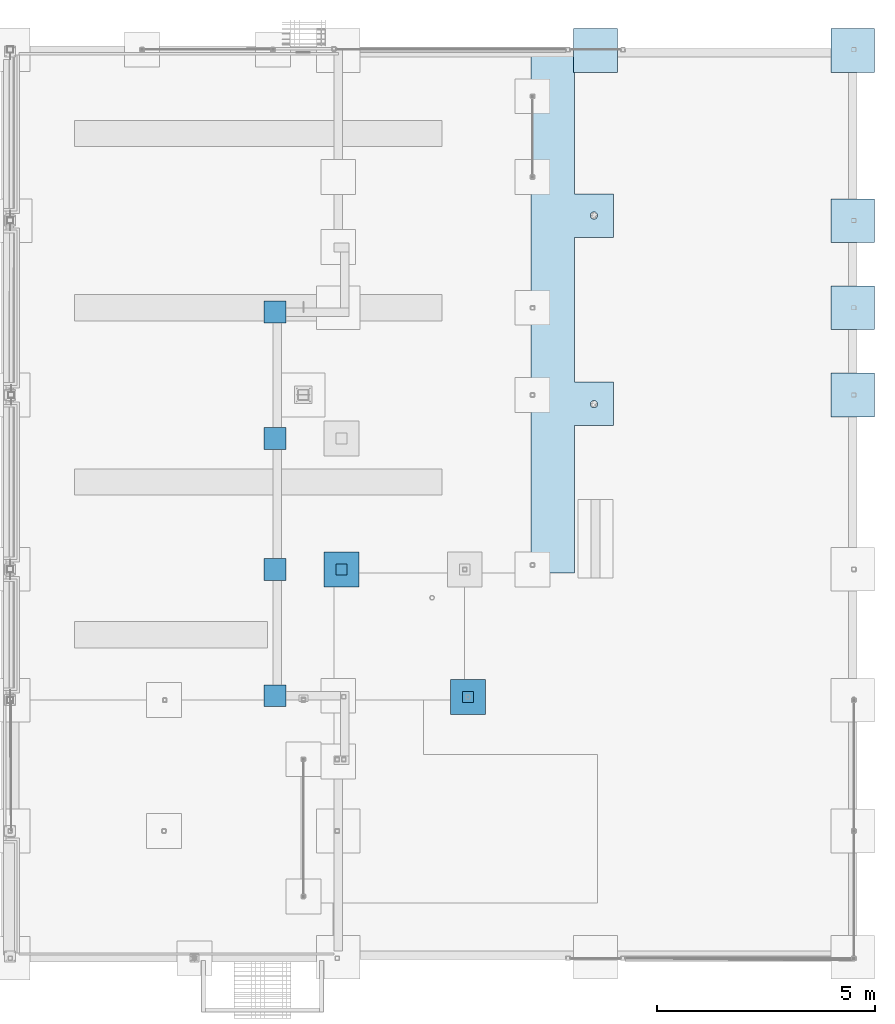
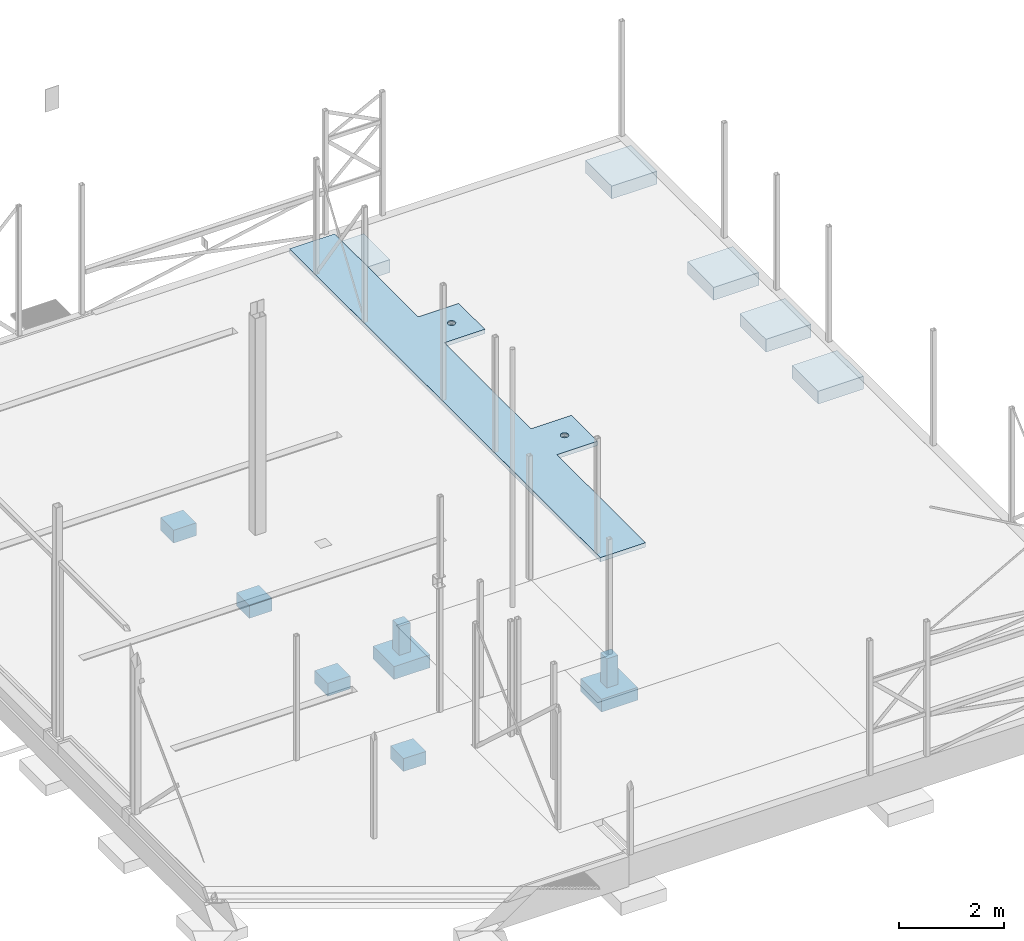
# One storey, part 10 of 18: 12 slabs, 2 openings.
"""IFC2X3 building model written with IfcOpenShell, lengths in millimetres."""

from ifc_helpers import new_model, entity, si_unit, converted_unit, derived_unit, direction, frame, frame_2d, origin, origin_2d_with_axis, place, context, subcontext, project, spatial, polyline, rectangle, outline, extrude, faceted_brep, material, layer, layer_set, layer_usage, element, save


model = new_model("IFC2X3")

# Units and contexts
model_context = context("Model", 3, precision=0.01, world=origin(), true_north=direction((6.12303176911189e-17, 1.0)))
body_context = subcontext(model_context, "Body", "Model", "MODEL_VIEW")
ifc_project = project(units=[si_unit("LENGTHUNIT", "METRE", prefix="MILLI"), si_unit("AREAUNIT", "SQUARE_METRE"), si_unit("VOLUMEUNIT", "CUBIC_METRE"), converted_unit("PLANEANGLEUNIT", "DEGREE", entity("IfcRatioMeasure", 0.0174532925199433), si_unit("PLANEANGLEUNIT", "RADIAN"), dimensions=[0, 0, 0, 0, 0, 0, 0]), si_unit("MASSUNIT", "GRAM", prefix="KILO"), derived_unit("MASSDENSITYUNIT", [(si_unit("MASSUNIT", "GRAM", prefix="KILO"), 1), (si_unit("LENGTHUNIT", "METRE"), -3)]), si_unit("TIMEUNIT", "SECOND"), si_unit("FREQUENCYUNIT", "HERTZ"), si_unit("THERMODYNAMICTEMPERATUREUNIT", "DEGREE_CELSIUS"), derived_unit("THERMALTRANSMITTANCEUNIT", [(si_unit("MASSUNIT", "GRAM", prefix="KILO"), 1), (si_unit("THERMODYNAMICTEMPERATUREUNIT", "KELVIN"), -1), (si_unit("TIMEUNIT", "SECOND"), -3)]), derived_unit("VOLUMETRICFLOWRATEUNIT", [(si_unit("LENGTHUNIT", "METRE"), 3), (si_unit("TIMEUNIT", "SECOND"), -1)]), si_unit("ELECTRICCURRENTUNIT", "AMPERE"), si_unit("ELECTRICVOLTAGEUNIT", "VOLT"), si_unit("POWERUNIT", "WATT"), si_unit("FORCEUNIT", "NEWTON", prefix="KILO"), si_unit("ILLUMINANCEUNIT", "LUX"), si_unit("LUMINOUSFLUXUNIT", "LUMEN"), si_unit("LUMINOUSINTENSITYUNIT", "CANDELA"), derived_unit("USERDEFINED", [(si_unit("MASSUNIT", "GRAM", prefix="KILO"), -1), (si_unit("LENGTHUNIT", "METRE"), -2), (si_unit("TIMEUNIT", "SECOND"), 3), (si_unit("LUMINOUSFLUXUNIT", "LUMEN"), 1)]), derived_unit("LINEARVELOCITYUNIT", [(si_unit("LENGTHUNIT", "METRE"), 1), (si_unit("TIMEUNIT", "SECOND"), -1)]), si_unit("PRESSUREUNIT", "PASCAL"), derived_unit("USERDEFINED", [(si_unit("LENGTHUNIT", "METRE"), -2), (si_unit("MASSUNIT", "GRAM", prefix="KILO"), 1), (si_unit("TIMEUNIT", "SECOND"), -2)])], contexts=[model_context])

# Site, building, storey
site_placement = place(None, frame((0.0, 0.0, 101000.0)))
site = spatial("IfcSite", under=ifc_project, at=site_placement, Name="Default", CompositionType="ELEMENT")
building_placement = place(site_placement, origin())
building = spatial("IfcBuilding", under=site, at=building_placement, CompositionType="ELEMENT")
storey_placement = place(building_placement, origin())
storey = spatial("IfcBuildingStorey", under=building, at=storey_placement, Name="01", CompositionType="ELEMENT", Elevation=8.9295595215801e-10)

# Slabs
ifc_material = material(Name="Betong Plasstøpt - B35")
slab_1_placement = place(storey_placement, origin())
element("IfcSlab", 1, at=slab_1_placement, inside=storey, material=ifc_material, Name="Punktfundament:Betong 1000x1000x300mm", ObjectType="Punktfundament:Betong 1000x1000x300mm", PredefinedType="FLOOR", context=body_context, shape_type="SweptSolid", body=[
    extrude(rectangle(XDim=999.999999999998, YDim=999.999999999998, at=origin_2d_with_axis()), frame((23086.2644969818, 44317.9507529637, -1000.0), z_axis=(0.0, 0.0, 1.0), x_axis=(-1.0, 0.0, 0.0)), (0.0, 0.0, 1.0), 300.0),
])
slab_2_placement = place(storey_placement, origin())
element("IfcSlab", 2, at=slab_2_placement, inside=storey, material=ifc_material, Name="Punktfundament:Betong 1000x1000x300mm", ObjectType="Punktfundament:Betong 1000x1000x300mm", PredefinedType="FLOOR", context=body_context, shape_type="SweptSolid", body=[
    extrude(rectangle(XDim=999.999999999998, YDim=999.999999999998, at=origin_2d_with_axis()), frame((23086.2644969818, 40417.9507529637, -1000.0), z_axis=(0.0, 0.0, 1.0), x_axis=(-1.0, 0.0, 0.0)), (0.0, 0.0, 1.0), 300.0),
])
slab_3_placement = place(storey_placement, origin())
element("IfcSlab", 3, at=slab_3_placement, inside=storey, material=ifc_material, Name="Punktfundament:Betong 1000x1000x300mm", ObjectType="Punktfundament:Betong 1000x1000x300mm", PredefinedType="FLOOR", context=body_context, shape_type="SweptSolid", body=[
    extrude(rectangle(XDim=999.999999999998, YDim=999.999999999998, at=origin_2d_with_axis()), frame((23086.2644969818, 38417.9507529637, -1000.0), z_axis=(0.0, 0.0, 1.0), x_axis=(-1.0, 0.0, 0.0)), (0.0, 0.0, 1.0), 300.0),
])
slab_4_placement = place(storey_placement, origin())
element("IfcSlab", 4, at=slab_4_placement, inside=storey, material=ifc_material, Name="Punktfundament:Betong 1000x1000x300mm", ObjectType="Punktfundament:Betong 1000x1000x300mm", PredefinedType="FLOOR", context=body_context, shape_type="SweptSolid", body=[
    extrude(rectangle(XDim=999.999999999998, YDim=999.999999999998, at=origin_2d_with_axis()), frame((23086.2644969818, 36417.9507529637, -1000.0), z_axis=(0.0, 0.0, 1.0), x_axis=(-1.0, 0.0, 0.0)), (0.0, 0.0, 1.0), 300.0),
])
slab_5_placement = place(storey_placement, origin())
element("IfcSlab", 5, at=slab_5_placement, inside=storey, material=ifc_material, Name="Punktfundament:Betong 1000x1000x300mm", ObjectType="Punktfundament:Betong 1000x1000x300mm", PredefinedType="FLOOR", context=body_context, shape_type="SweptSolid", body=[
    extrude(rectangle(XDim=1000.0, YDim=999.999999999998, at=frame_2d((-1.08002495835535e-12, 0.0), x_axis=(1.0, 0.0))), frame((17186.2644969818, 44317.9507529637, -1000.0), z_axis=(0.0, 0.0, 1.0), x_axis=(-1.0, 0.0, 0.0)), (0.0, 0.0, 1.0), 300.0),
])
for number, where, name in (
    (6, (13860.1002454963, 29090.7621155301, -1000.0), "Fundament med knast:800x800x300"),
    (7, (10960.9797660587, 32017.9507529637, -1000.0), "Fundament med knast:800x800x300"),
):
    element("IfcSlab", number, at=place(storey_placement, frame(where)), inside=storey, material=ifc_material, Name=name, ObjectType="Fundament med knast:800x800x300", PredefinedType="FLOOR", context=body_context, shape_type="Brep", body=[
        faceted_brep([(800.0, 800.0, 0.0), (800.0, 0.0, 0.0), (0.0, 0.0, 0.0), (0.0, 800.0, 0.0), (800.0, 800.0, 300.0), (800.0, 0.0, 300.0), (0.0, 0.0, 300.0), (0.0, 800.0, 300.0), (525.0, 525.0, 980.0), (275.0, 525.0, 980.0), (275.0, 275.0, 980.0), (525.0, 275.0, 980.0), (525.0, 525.0, 300.0), (275.0, 525.0, 300.0), (275.0, 275.0, 300.0), (525.0, 275.0, 300.0)], [[[0, 1, 2, 3]], [[4, 5, 1, 0]], [[5, 6, 2, 1]], [[6, 7, 3, 2]], [[7, 4, 0, 3]], [[8, 9, 10, 11]], [[9, 8, 12, 13]], [[10, 9, 13, 14]], [[11, 10, 14, 15]], [[8, 11, 15, 12]], [[13, 12, 15, 14], [4, 7, 6, 5]]], outer=[[True], [True], [True], [True], [True], [True], [True], [True], [True], [True], [False, True]]),
    ])
slab_6_placement = place(storey_placement, origin())
element("IfcSlab", 8, at=slab_6_placement, inside=storey, material=ifc_material, Name="Punktfundament:500x500x300", ObjectType="Punktfundament:500x500x300", PredefinedType="FLOOR", context=body_context, shape_type="SweptSolid", body=[
    extrude(rectangle(XDim=500.0, YDim=499.999999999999, at=frame_2d((5.40012479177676e-13, 0.0), x_axis=(1.0, 0.0))), frame((9837.12800064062, 38317.9507529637, -1000.0), z_axis=(0.0, 0.0, 1.0), x_axis=(-1.0, 0.0, 0.0)), (0.0, 0.0, 1.0), 300.0),
])
slab_7_placement = place(storey_placement, origin())
element("IfcSlab", 9, at=slab_7_placement, inside=storey, material=ifc_material, Name="Punktfundament:500x500x300", ObjectType="Punktfundament:500x500x300", PredefinedType="FLOOR", context=body_context, shape_type="SweptSolid", body=[
    extrude(rectangle(XDim=500.0, YDim=499.999999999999, at=frame_2d((5.40012479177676e-13, 0.0), x_axis=(1.0, 0.0))), frame((9837.12800064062, 35417.9507529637, -1000.0), z_axis=(0.0, 0.0, 1.0), x_axis=(-1.0, 0.0, 0.0)), (0.0, 0.0, 1.0), 300.0),
])
slab_8_placement = place(storey_placement, origin())
element("IfcSlab", 10, at=slab_8_placement, inside=storey, material=ifc_material, Name="Punktfundament:500x500x300", ObjectType="Punktfundament:500x500x300", PredefinedType="FLOOR", context=body_context, shape_type="SweptSolid", body=[
    extrude(rectangle(XDim=500.0, YDim=499.999999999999, at=frame_2d((5.40012479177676e-13, 0.0), x_axis=(1.0, 0.0))), frame((9836.26449698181, 32417.9507529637, -1000.0), z_axis=(0.0, 0.0, 1.0), x_axis=(-1.0, 0.0, 0.0)), (0.0, 0.0, 1.0), 300.0),
])
slab_9_placement = place(storey_placement, origin())
element("IfcSlab", 11, at=slab_9_placement, inside=storey, material=ifc_material, Name="Punktfundament:500x500x300", ObjectType="Punktfundament:500x500x300", PredefinedType="FLOOR", context=body_context, shape_type="SweptSolid", body=[
    extrude(rectangle(XDim=500.0, YDim=499.999999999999, at=frame_2d((5.40012479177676e-13, 0.0), x_axis=(1.0, 0.0))), frame((9837.12800064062, 29517.9507529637, -1000.0), z_axis=(0.0, 0.0, 1.0), x_axis=(-1.0, 0.0, 0.0)), (0.0, 0.0, 1.0), 300.0),
])

# Slab, openings
ifc_layer = layer(ifc_material, 100.0)
ifc_layer_set = layer_set([ifc_layer], Name="Floor:BETONG 100")
ifc_layer_usage = layer_usage(ifc_layer_set, "AXIS3", "POSITIVE", 0.0)
slab_10_placement = place(storey_placement, frame((15701.3188765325, 32329.1471426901, -100.0)))
slab_10 = element("IfcSlab", 12, at=slab_10_placement, inside=storey, material=ifc_layer_usage, Name="Floor:BETONG 100", ObjectType="Floor:BETONG 100", PredefinedType="FLOOR", context=body_context, shape_type="SweptSolid", body=[
    extrude(outline(polyline([(948.160295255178, -5949.4018051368), (948.160295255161, 5949.4018051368), (-51.8397047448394, 5949.4018051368), (-51.8397047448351, 2753.66588291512), (-948.160295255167, 2753.66588291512), (-948.160295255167, 1753.66588291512), (-51.8397047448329, 1753.66588291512), (-51.8397047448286, -1558.36392276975), (-948.160295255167, -1558.36392276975), (-948.160295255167, -2558.36392276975), (-51.8397047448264, -2558.36392276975), (-51.8397047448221, -5949.4018051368), (948.160295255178, -5949.4018051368)])), frame((948.160295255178, 5949.4018051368, 100.0), z_axis=(0.0, 0.0, -1.0), x_axis=(-1.0, 0.0, 0.0)), (0.0, 0.0, 1.0), 100.0),
])
opening_1_placement = place(slab_10_placement, frame((1364.01502301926, 3794.19261013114, 0.0)))
element("IfcOpeningElement", 13, at=opening_1_placement, cuts=slab_10, ObjectType="Opening", context=body_context, shape_type="Brep", body=[
    faceted_brep([(1.5952722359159, 84.1452722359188, 125.399999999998), (4.73714453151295, 99.9405309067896, 74.5999999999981), (1.5952722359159, 84.1452722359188, 74.5999999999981), (160.411527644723, 115.735789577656, 74.5999999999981), (160.411527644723, 115.735789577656, 125.399999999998), (162.335053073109, 106.065574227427, 74.5999999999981), (25.7736074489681, 142.516937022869, 74.5999999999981), (16.8263121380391, 129.126363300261, 125.399999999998), (25.7736074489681, 142.516937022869, 125.399999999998), (39.1641811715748, 151.464232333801, 74.5999999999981), (115.735789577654, 160.411527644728, 125.399999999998), (129.126363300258, 151.464232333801, 125.399999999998), (115.735789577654, 160.411527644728, 74.5999999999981), (52.5547548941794, 160.411527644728, 74.5999999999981), (39.1641811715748, 151.464232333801, 125.399999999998), (52.5547548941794, 160.411527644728, 125.399999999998), (163.55339994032, 99.9405309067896, 125.399999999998), (7.87901682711, 115.735789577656, 125.399999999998), (7.87901682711, 115.735789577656, 74.5999999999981), (4.73714453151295, 99.9405309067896, 125.399999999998), (16.8263121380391, 129.126363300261, 74.5999999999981), (5.83780258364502, 105.473912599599, 74.5999999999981), (84.1452722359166, 166.695272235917, 74.5999999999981), (68.350013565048, 163.553399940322, 125.399999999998), (84.1452722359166, 166.695272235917, 125.399999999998), (129.126363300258, 151.464232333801, 74.5999999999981), (68.350013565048, 163.553399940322, 74.5999999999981), (142.516937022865, 142.516937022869, 125.399999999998), (142.516937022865, 142.516937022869, 74.5999999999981), (151.464232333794, 129.126363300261, 74.5999999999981), (151.464232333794, 129.126363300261, 125.399999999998), (166.695272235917, 84.1452722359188, 74.5999999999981), (162.452741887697, 105.473912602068, 74.5999999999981), (99.9405309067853, 163.553399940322, 74.5999999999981), (99.9405309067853, 163.553399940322, 125.399999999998), (166.695272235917, 84.1452722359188, 125.399999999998), (163.55339994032, 68.350013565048, 74.5999999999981), (25.7736074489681, 25.7736074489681, 125.399999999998), (25.7736074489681, 25.7736074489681, 74.5999999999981), (39.1641811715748, 16.8263121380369, 125.399999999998), (142.516937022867, 25.7736074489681, 74.5999999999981), (151.464232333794, 39.164181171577, 125.399999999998), (142.516937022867, 25.7736074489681, 125.399999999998), (16.8263121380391, 39.164181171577, 125.399999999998), (7.87901682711, 52.5547548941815, 74.5999999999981), (7.87901682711, 52.5547548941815, 125.399999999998), (5.95549140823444, 62.2249701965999, 74.5999999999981), (115.735789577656, 7.87901682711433, 74.5999999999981), (129.126363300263, 16.8263121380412, 125.399999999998), (115.735789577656, 7.87901682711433, 125.399999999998), (39.1641811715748, 16.8263121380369, 74.5999999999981), (160.411527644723, 52.5547548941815, 125.399999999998), (160.411527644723, 52.5547548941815, 74.5999999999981), (163.55339994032, 68.350013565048, 125.399999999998), (129.126363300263, 16.8263121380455, 74.5999999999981), (151.464232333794, 39.164181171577, 74.5999999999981), (16.8263121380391, 39.164181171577, 74.5999999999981), (84.1452722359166, 1.59527223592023, 74.5999999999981), (99.9405309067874, 4.73714453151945, 125.399999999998), (84.1452722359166, 1.59527223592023, 125.399999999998), (4.73714453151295, 68.350013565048, 125.399999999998), (99.9405309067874, 4.73714453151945, 74.5999999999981), (5.83780258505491, 62.8166318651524, 74.5999999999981), (52.5547548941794, 7.87901682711, 125.399999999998), (52.5547548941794, 7.87901682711, 74.5999999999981), (68.350013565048, 4.73714453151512, 125.399999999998), (162.452741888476, 62.8166318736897, 74.5999999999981), (68.350013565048, 4.73714453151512, 74.5999999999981), (45.6504430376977, 106.37027223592, 49.1999999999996), (42.6728576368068, 95.2577722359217, 49.1999999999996), (53.7853576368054, 114.505186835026, 49.1999999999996), (61.9202722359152, 122.640101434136, 49.1999999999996), (122.640101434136, 106.37027223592, 49.1999999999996), (84.1452722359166, 128.595272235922, 49.1999999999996), (39.6952722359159, 84.1452722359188, 49.1999999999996), (73.0327722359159, 125.617686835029, 49.1999999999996), (114.505186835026, 114.50518683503, 49.1999999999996), (106.370272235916, 122.64010143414, 49.1999999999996), (95.2577722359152, 125.617686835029, 49.1999999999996), (125.617686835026, 95.2577722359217, 49.1999999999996), (128.595272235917, 84.1452722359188, 49.1999999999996), (122.640101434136, 61.9202722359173, 49.1999999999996), (125.617686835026, 73.0327722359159, 49.1999999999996), (95.2577722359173, 42.672857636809, 49.1999999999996), (114.505186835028, 53.7853576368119, 49.1999999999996), (106.370272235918, 45.6504430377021, 49.1999999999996), (61.9202722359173, 45.6504430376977, 49.1999999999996), (84.1452722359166, 39.6952722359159, 49.1999999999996), (73.0327722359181, 42.672857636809, 49.1999999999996), (53.7853576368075, 53.7853576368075, 49.1999999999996), (42.6728576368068, 73.0327722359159, 49.1999999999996), (45.6504430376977, 61.9202722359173, 49.1999999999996), (61.9202722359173, 122.640101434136, 0.0), (122.640101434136, 106.37027223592, 0.0), (126.247147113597, 92.9085944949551, 0.0), (95.2577722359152, 125.617686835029, 0.0), (84.1452722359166, 128.595272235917, 0.0), (73.0327722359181, 125.617686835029, 0.0), (45.6504430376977, 106.37027223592, 0.0), (53.7853576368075, 114.505186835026, 0.0), (42.0433973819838, 92.9085945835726, 0.0), (128.595272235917, 84.1452722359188, 0.0), (114.505186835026, 114.505186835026, 0.0), (39.6952722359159, 84.1452722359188, 0.0), (106.370272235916, 122.640101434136, 0.0), (122.640101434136, 61.9202722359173, 0.0), (45.6504430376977, 61.9202722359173, 0.0), (42.0433973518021, 75.3819500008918, 0.0), (106.370272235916, 45.6504430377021, 0.0), (114.505186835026, 53.7853576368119, 0.0), (126.247146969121, 75.3819494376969, 0.0), (95.2577722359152, 42.672857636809, 0.0), (84.1452722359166, 39.6952722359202, 0.0), (53.7853576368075, 53.7853576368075, 0.0), (73.0327722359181, 42.672857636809, 0.0), (61.9202722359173, 45.6504430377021, 0.0), (84.1452722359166, 84.1452722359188, 0.0), (84.1452722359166, 84.1452722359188, 125.399999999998)], [[[0, 1, 2]], [[3, 4, 5]], [[6, 7, 8]], [[6, 8, 9]], [[10, 11, 12]], [[13, 14, 15]], [[5, 4, 16]], [[17, 18, 19]], [[14, 13, 9]], [[6, 20, 7]], [[19, 18, 21]], [[9, 8, 14]], [[22, 23, 24]], [[12, 11, 25]], [[26, 15, 23]], [[27, 28, 25]], [[19, 1, 0]], [[4, 3, 29]], [[27, 30, 28]], [[26, 13, 15]], [[16, 31, 32]], [[24, 33, 22]], [[24, 34, 33]], [[27, 25, 11]], [[30, 4, 29]], [[28, 30, 29]], [[23, 22, 26]], [[35, 31, 16]], [[20, 17, 7]], [[12, 33, 10]], [[18, 17, 20]], [[10, 33, 34]], [[35, 36, 31]], [[37, 38, 39]], [[40, 41, 42]], [[37, 43, 38]], [[44, 45, 46]], [[47, 48, 49]], [[39, 38, 50]], [[51, 52, 53]], [[48, 47, 54]], [[40, 55, 41]], [[54, 42, 48]], [[38, 43, 56]], [[57, 58, 59]], [[46, 45, 60]], [[61, 49, 58]], [[53, 36, 35]], [[52, 51, 55]], [[45, 44, 56]], [[40, 42, 54]], [[61, 47, 49]], [[60, 2, 62]], [[63, 50, 64]], [[64, 65, 63]], [[39, 50, 63]], [[43, 45, 56]], [[58, 57, 61]], [[55, 51, 41]], [[0, 2, 60]], [[53, 52, 66]], [[57, 59, 67]], [[65, 64, 67]], [[67, 59, 65]], [[68, 69, 18]], [[9, 70, 6]], [[20, 6, 70]], [[70, 9, 71]], [[29, 3, 72]], [[68, 20, 70]], [[22, 33, 73]], [[74, 2, 69]], [[68, 18, 20]], [[73, 75, 26]], [[26, 22, 73]], [[25, 28, 76]], [[77, 12, 25]], [[29, 76, 28]], [[18, 69, 21]], [[73, 33, 78]], [[75, 71, 13]], [[3, 79, 72]], [[12, 77, 78]], [[33, 12, 78]], [[31, 80, 79]], [[79, 3, 5]], [[31, 79, 32]], [[9, 13, 71]], [[76, 29, 72]], [[69, 2, 1]], [[77, 25, 76]], [[75, 13, 26]], [[81, 82, 52]], [[83, 47, 61]], [[55, 40, 84]], [[83, 85, 47]], [[86, 64, 50]], [[81, 55, 84]], [[54, 84, 40]], [[80, 31, 82]], [[54, 47, 85]], [[87, 83, 61]], [[61, 57, 87]], [[64, 86, 88]], [[38, 89, 50]], [[82, 31, 36]], [[52, 82, 66]], [[2, 74, 90]], [[84, 54, 85]], [[44, 90, 91]], [[89, 56, 91]], [[56, 89, 38]], [[56, 44, 91]], [[90, 44, 46]], [[2, 90, 62]], [[81, 52, 55]], [[67, 64, 88]], [[87, 67, 88]], [[86, 50, 89]], [[67, 87, 57]], [[92, 70, 71]], [[93, 79, 94]], [[77, 95, 78]], [[73, 96, 97]], [[98, 69, 68]], [[68, 99, 98]], [[100, 74, 69]], [[99, 68, 70]], [[97, 71, 75]], [[75, 73, 97]], [[69, 98, 100]], [[80, 101, 94]], [[94, 79, 80]], [[102, 76, 72]], [[92, 99, 70]], [[95, 96, 78]], [[100, 103, 74]], [[104, 77, 76]], [[72, 79, 93]], [[92, 71, 97]], [[104, 76, 102]], [[77, 104, 95]], [[96, 73, 78]], [[72, 93, 102]], [[105, 82, 81]], [[106, 90, 107]], [[85, 108, 109]], [[80, 110, 101]], [[110, 80, 82]], [[111, 108, 83]], [[85, 109, 84]], [[87, 112, 111]], [[109, 81, 84]], [[105, 110, 82]], [[105, 81, 109]], [[87, 111, 83]], [[107, 90, 74]], [[113, 89, 91]], [[108, 85, 83]], [[114, 112, 88]], [[115, 89, 113]], [[115, 86, 89]], [[91, 90, 106]], [[74, 103, 107]], [[112, 87, 88]], [[86, 115, 114]], [[86, 114, 88]], [[91, 106, 113]], [[116, 93, 94]], [[116, 104, 102]], [[116, 96, 95]], [[116, 98, 99]], [[116, 92, 97]], [[116, 103, 100]], [[116, 105, 109]], [[116, 101, 110]], [[116, 108, 111]], [[116, 115, 113]], [[116, 106, 107]], [[116, 112, 114]], [[117, 35, 16]], [[117, 4, 30]], [[117, 27, 11]], [[117, 10, 34]], [[117, 8, 7]], [[117, 24, 23]], [[117, 15, 14]], [[117, 17, 19]], [[117, 49, 48]], [[117, 42, 41]], [[117, 51, 53]], [[117, 59, 58]], [[117, 37, 39]], [[117, 0, 60]], [[117, 45, 43]], [[117, 63, 65]], [[19, 21, 1]], [[16, 32, 5]], [[60, 62, 46]], [[53, 66, 36]], [[79, 5, 32]], [[69, 1, 21]], [[82, 36, 66]], [[90, 46, 62]], [[116, 94, 101]], [[116, 102, 93]], [[116, 95, 104]], [[116, 99, 92]], [[116, 97, 96]], [[116, 100, 98]], [[116, 109, 108]], [[116, 110, 105]], [[116, 111, 112]], [[116, 113, 106]], [[116, 107, 103]], [[116, 114, 115]], [[117, 16, 4]], [[117, 30, 27]], [[117, 11, 10]], [[117, 34, 24]], [[117, 7, 17]], [[117, 23, 15]], [[117, 14, 8]], [[117, 19, 0]], [[117, 48, 42]], [[117, 41, 51]], [[117, 53, 35]], [[117, 58, 49]], [[117, 39, 63]], [[117, 60, 45]], [[117, 43, 37]], [[117, 65, 59]]]),
])
opening_2_placement = place(slab_10_placement, frame((1364.01502301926, 8118.922415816, 0.0)))
element("IfcOpeningElement", 14, at=opening_2_placement, cuts=slab_10, ObjectType="Opening", context=body_context, shape_type="Brep", body=[
    faceted_brep([(1.5952722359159, 84.1452722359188, 125.399999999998), (4.73714453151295, 99.9405309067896, 74.5999999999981), (1.5952722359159, 84.1452722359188, 74.5999999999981), (160.411527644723, 115.73578957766, 74.5999999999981), (160.411527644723, 115.73578957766, 125.399999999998), (162.335053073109, 106.065574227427, 74.5999999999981), (25.7736074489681, 142.516937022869, 74.5999999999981), (16.8263121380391, 129.126363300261, 125.399999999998), (25.7736074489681, 142.516937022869, 125.399999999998), (39.1641811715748, 151.464232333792, 74.5999999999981), (115.735789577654, 160.411527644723, 125.399999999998), (129.126363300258, 151.464232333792, 125.399999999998), (115.735789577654, 160.411527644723, 74.5999999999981), (52.5547548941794, 160.411527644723, 74.5999999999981), (39.1641811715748, 151.464232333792, 125.399999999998), (52.5547548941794, 160.411527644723, 125.399999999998), (163.55339994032, 99.9405309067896, 125.399999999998), (7.87901682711, 115.73578957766, 125.399999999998), (7.87901682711, 115.73578957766, 74.5999999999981), (4.73714453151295, 99.9405309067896, 125.399999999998), (16.8263121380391, 129.126363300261, 74.5999999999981), (5.83780258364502, 105.473912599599, 74.5999999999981), (84.1452722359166, 166.695272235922, 74.5999999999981), (68.350013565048, 163.553399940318, 125.399999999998), (84.1452722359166, 166.695272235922, 125.399999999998), (129.126363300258, 151.464232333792, 74.5999999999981), (68.350013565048, 163.553399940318, 74.5999999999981), (142.516937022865, 142.516937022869, 125.399999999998), (142.516937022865, 142.516937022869, 74.5999999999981), (151.464232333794, 129.126363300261, 74.5999999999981), (151.464232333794, 129.126363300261, 125.399999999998), (166.695272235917, 84.1452722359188, 74.5999999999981), (162.452741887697, 105.473912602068, 74.5999999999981), (99.9405309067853, 163.553399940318, 74.5999999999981), (99.9405309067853, 163.553399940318, 125.399999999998), (166.695272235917, 84.1452722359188, 125.399999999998), (163.55339994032, 68.350013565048, 74.5999999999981), (25.7736074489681, 25.7736074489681, 125.399999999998), (25.7736074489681, 25.7736074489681, 74.5999999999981), (39.1641811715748, 16.8263121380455, 125.399999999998), (142.516937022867, 25.7736074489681, 74.5999999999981), (151.464232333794, 39.164181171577, 125.399999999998), (142.516937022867, 25.7736074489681, 125.399999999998), (16.8263121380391, 39.164181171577, 125.399999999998), (7.87901682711, 52.5547548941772, 74.5999999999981), (7.87901682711, 52.5547548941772, 125.399999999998), (5.95549140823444, 62.2249701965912, 74.5999999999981), (115.735789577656, 7.87901682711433, 74.5999999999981), (129.126363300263, 16.8263121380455, 125.399999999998), (115.735789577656, 7.87901682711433, 125.399999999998), (39.1641811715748, 16.8263121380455, 74.5999999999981), (160.411527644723, 52.5547548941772, 125.399999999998), (160.411527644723, 52.5547548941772, 74.5999999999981), (163.55339994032, 68.350013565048, 125.399999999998), (129.126363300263, 16.8263121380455, 74.5999999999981), (151.464232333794, 39.164181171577, 74.5999999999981), (16.8263121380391, 39.164181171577, 74.5999999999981), (84.1452722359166, 1.5952722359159, 74.5999999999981), (99.9405309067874, 4.73714453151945, 125.399999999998), (84.1452722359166, 1.5952722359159, 125.399999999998), (4.73714453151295, 68.350013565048, 125.399999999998), (99.9405309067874, 4.73714453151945, 74.5999999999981), (5.83780258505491, 62.8166318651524, 74.5999999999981), (52.5547548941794, 7.87901682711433, 125.399999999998), (52.5547548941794, 7.87901682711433, 74.5999999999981), (68.350013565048, 4.73714453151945, 125.399999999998), (162.452741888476, 62.8166318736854, 74.5999999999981), (68.350013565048, 4.73714453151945, 74.5999999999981), (45.6504430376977, 106.370272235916, 49.1999999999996), (42.6728576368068, 95.257772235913, 49.1999999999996), (53.7853576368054, 114.505186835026, 49.1999999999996), (61.9202722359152, 122.640101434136, 49.1999999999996), (122.640101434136, 106.370272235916, 49.1999999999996), (84.1452722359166, 128.595272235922, 49.1999999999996), (39.6952722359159, 84.1452722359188, 49.1999999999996), (73.0327722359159, 125.617686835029, 49.1999999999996), (114.505186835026, 114.505186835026, 49.1999999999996), (106.370272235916, 122.640101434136, 49.1999999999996), (95.2577722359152, 125.617686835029, 49.1999999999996), (125.617686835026, 95.257772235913, 49.1999999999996), (128.595272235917, 84.1452722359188, 49.1999999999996), (122.640101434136, 61.9202722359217, 49.1999999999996), (125.617686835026, 73.0327722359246, 49.1999999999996), (95.2577722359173, 42.672857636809, 49.1999999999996), (114.505186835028, 53.7853576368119, 49.1999999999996), (106.370272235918, 45.6504430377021, 49.1999999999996), (61.9202722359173, 45.6504430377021, 49.1999999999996), (84.1452722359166, 39.6952722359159, 49.1999999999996), (73.0327722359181, 42.672857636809, 49.1999999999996), (53.7853576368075, 53.7853576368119, 49.1999999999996), (42.6728576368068, 73.0327722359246, 49.1999999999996), (45.6504430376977, 61.9202722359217, 49.1999999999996), (61.9202722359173, 122.640101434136, 0.0), (122.640101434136, 106.370272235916, 0.0), (126.247147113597, 92.9085944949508, 0.0), (95.2577722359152, 125.617686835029, 0.0), (84.1452722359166, 128.595272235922, 0.0), (73.0327722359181, 125.617686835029, 0.0), (45.6504430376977, 106.370272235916, 0.0), (53.7853576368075, 114.505186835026, 0.0), (42.0433973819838, 92.9085945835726, 0.0), (128.595272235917, 84.1452722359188, 0.0), (114.505186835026, 114.505186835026, 0.0), (39.6952722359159, 84.1452722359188, 0.0), (106.370272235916, 122.640101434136, 0.0), (122.640101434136, 61.9202722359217, 0.0), (45.6504430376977, 61.9202722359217, 0.0), (42.0433973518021, 75.3819500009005, 0.0), (106.370272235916, 45.6504430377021, 0.0), (114.505186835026, 53.7853576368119, 0.0), (126.247146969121, 75.3819494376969, 0.0), (95.2577722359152, 42.6728576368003, 0.0), (84.1452722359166, 39.6952722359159, 0.0), (53.7853576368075, 53.7853576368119, 0.0), (73.0327722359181, 42.672857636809, 0.0), (61.9202722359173, 45.6504430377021, 0.0), (84.1452722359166, 84.1452722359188, 0.0), (84.1452722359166, 84.1452722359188, 125.399999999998)], [[[0, 1, 2]], [[3, 4, 5]], [[6, 7, 8]], [[6, 8, 9]], [[10, 11, 12]], [[13, 14, 15]], [[5, 4, 16]], [[17, 18, 19]], [[14, 13, 9]], [[6, 20, 7]], [[19, 18, 21]], [[9, 8, 14]], [[22, 23, 24]], [[12, 11, 25]], [[26, 15, 23]], [[27, 28, 25]], [[19, 1, 0]], [[4, 3, 29]], [[27, 30, 28]], [[26, 13, 15]], [[16, 31, 32]], [[24, 33, 22]], [[24, 34, 33]], [[27, 25, 11]], [[30, 4, 29]], [[28, 30, 29]], [[23, 22, 26]], [[35, 31, 16]], [[20, 17, 7]], [[12, 33, 10]], [[18, 17, 20]], [[10, 33, 34]], [[35, 36, 31]], [[37, 38, 39]], [[40, 41, 42]], [[37, 43, 38]], [[44, 45, 46]], [[47, 48, 49]], [[39, 38, 50]], [[51, 52, 53]], [[48, 47, 54]], [[40, 55, 41]], [[54, 42, 48]], [[38, 43, 56]], [[57, 58, 59]], [[46, 45, 60]], [[61, 49, 58]], [[53, 36, 35]], [[52, 51, 55]], [[45, 44, 56]], [[40, 42, 54]], [[61, 47, 49]], [[60, 2, 62]], [[63, 50, 64]], [[64, 65, 63]], [[39, 50, 63]], [[43, 45, 56]], [[58, 57, 61]], [[55, 51, 41]], [[0, 2, 60]], [[53, 52, 66]], [[57, 59, 67]], [[65, 64, 67]], [[67, 59, 65]], [[68, 69, 18]], [[9, 70, 6]], [[20, 6, 70]], [[70, 9, 71]], [[29, 3, 72]], [[68, 20, 70]], [[22, 33, 73]], [[74, 2, 69]], [[68, 18, 20]], [[73, 75, 26]], [[26, 22, 73]], [[25, 28, 76]], [[77, 12, 25]], [[29, 76, 28]], [[18, 69, 21]], [[73, 33, 78]], [[75, 71, 13]], [[3, 79, 72]], [[12, 77, 78]], [[33, 12, 78]], [[31, 80, 79]], [[79, 3, 5]], [[31, 79, 32]], [[9, 13, 71]], [[76, 29, 72]], [[69, 2, 1]], [[77, 25, 76]], [[75, 13, 26]], [[81, 82, 52]], [[83, 47, 61]], [[55, 40, 84]], [[83, 85, 47]], [[86, 64, 50]], [[81, 55, 84]], [[54, 84, 40]], [[80, 31, 82]], [[54, 47, 85]], [[87, 83, 61]], [[61, 57, 87]], [[64, 86, 88]], [[38, 89, 50]], [[82, 31, 36]], [[52, 82, 66]], [[2, 74, 90]], [[84, 54, 85]], [[44, 90, 91]], [[89, 56, 91]], [[56, 89, 38]], [[56, 44, 91]], [[90, 44, 46]], [[2, 90, 62]], [[81, 52, 55]], [[67, 64, 88]], [[87, 67, 88]], [[86, 50, 89]], [[67, 87, 57]], [[92, 70, 71]], [[93, 79, 94]], [[77, 95, 78]], [[73, 96, 97]], [[98, 69, 68]], [[68, 99, 98]], [[100, 74, 69]], [[99, 68, 70]], [[97, 71, 75]], [[75, 73, 97]], [[69, 98, 100]], [[80, 101, 94]], [[94, 79, 80]], [[102, 76, 72]], [[92, 99, 70]], [[95, 96, 78]], [[100, 103, 74]], [[104, 77, 76]], [[72, 79, 93]], [[92, 71, 97]], [[104, 76, 102]], [[77, 104, 95]], [[96, 73, 78]], [[72, 93, 102]], [[105, 82, 81]], [[106, 90, 107]], [[85, 108, 109]], [[80, 110, 101]], [[110, 80, 82]], [[111, 108, 83]], [[85, 109, 84]], [[87, 112, 111]], [[109, 81, 84]], [[105, 110, 82]], [[105, 81, 109]], [[87, 111, 83]], [[107, 90, 74]], [[113, 89, 91]], [[108, 85, 83]], [[114, 112, 88]], [[115, 89, 113]], [[115, 86, 89]], [[91, 90, 106]], [[74, 103, 107]], [[112, 87, 88]], [[86, 115, 114]], [[86, 114, 88]], [[91, 106, 113]], [[116, 93, 94]], [[116, 104, 102]], [[116, 96, 95]], [[116, 98, 99]], [[116, 92, 97]], [[116, 103, 100]], [[116, 105, 109]], [[116, 101, 110]], [[116, 108, 111]], [[116, 115, 113]], [[116, 106, 107]], [[116, 112, 114]], [[117, 35, 16]], [[117, 4, 30]], [[117, 27, 11]], [[117, 10, 34]], [[117, 8, 7]], [[117, 24, 23]], [[117, 15, 14]], [[117, 17, 19]], [[117, 49, 48]], [[117, 42, 41]], [[117, 51, 53]], [[117, 59, 58]], [[117, 37, 39]], [[117, 0, 60]], [[117, 45, 43]], [[117, 63, 65]], [[19, 21, 1]], [[16, 32, 5]], [[60, 62, 46]], [[53, 66, 36]], [[79, 5, 32]], [[69, 1, 21]], [[82, 36, 66]], [[90, 46, 62]], [[116, 94, 101]], [[116, 102, 93]], [[116, 95, 104]], [[116, 99, 92]], [[116, 97, 96]], [[116, 100, 98]], [[116, 109, 108]], [[116, 110, 105]], [[116, 111, 112]], [[116, 113, 106]], [[116, 107, 103]], [[116, 114, 115]], [[117, 16, 4]], [[117, 30, 27]], [[117, 11, 10]], [[117, 34, 24]], [[117, 7, 17]], [[117, 23, 15]], [[117, 14, 8]], [[117, 19, 0]], [[117, 48, 42]], [[117, 41, 51]], [[117, 53, 35]], [[117, 58, 49]], [[117, 39, 63]], [[117, 60, 45]], [[117, 43, 37]], [[117, 65, 59]]]),
])

save(model, "model.ifc")
